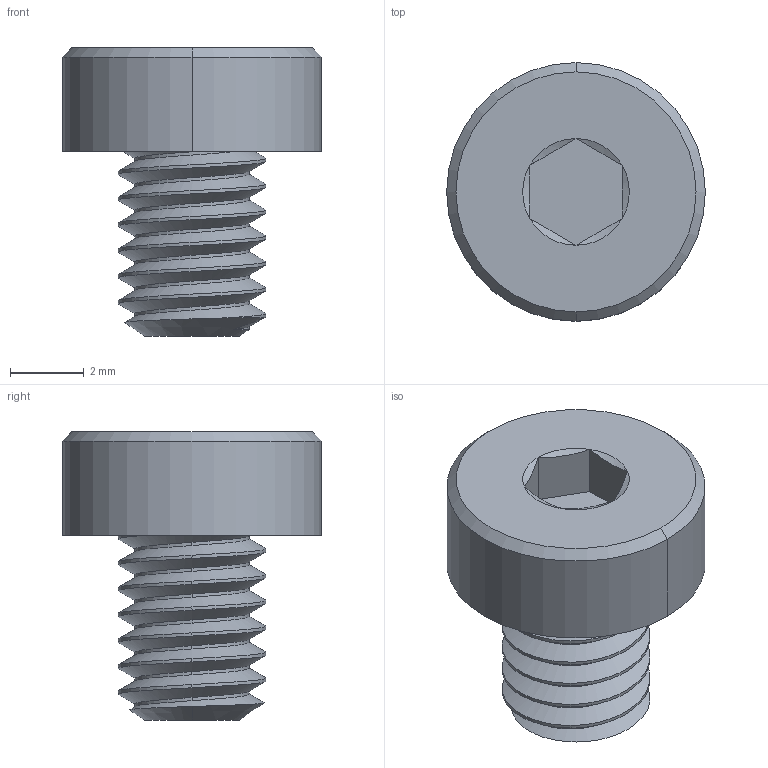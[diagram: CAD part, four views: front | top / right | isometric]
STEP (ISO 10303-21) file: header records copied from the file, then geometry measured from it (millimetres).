
FILE_DESCRIPTION (( 'STEP AP203' ), '1' );
FILE_NAME ('2804-0004-0005.STEP', '2017-04-04T18:18:44', ( '' ), ( '' ), 'SwSTEP 2.0', 'SolidWorks 2016', '' );
FILE_SCHEMA (( 'CONFIG_CONTROL_DESIGN' ));
Length unit declared in the file: inch
Products named in the file (1): 2804-0004-0005
Bounding box: 7 x 7 x 7.8 mm (x, y, z)
Volume: 148.3 mm3; surface area: 238.8 mm2
Topology: 1 solids, 1 shells, 53 faces, 132 edges, 83 vertices
Faces by surface type: cylinder 31, cone 10, plane 10, bspline 2
Entity records: 6198 total; most frequent: CARTESIAN_POINT 5044, ORIENTED_EDGE 264, DIRECTION 187, EDGE_CURVE 132, VERTEX_POINT 83, AXIS2_PLACEMENT_3D 71, EDGE_LOOP 55, FACE_OUTER_BOUND 53
